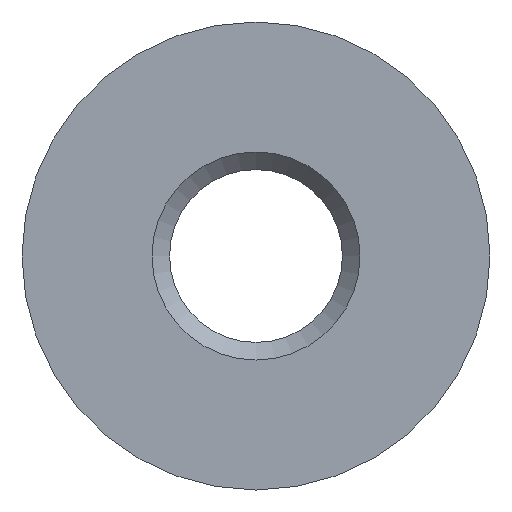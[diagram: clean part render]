
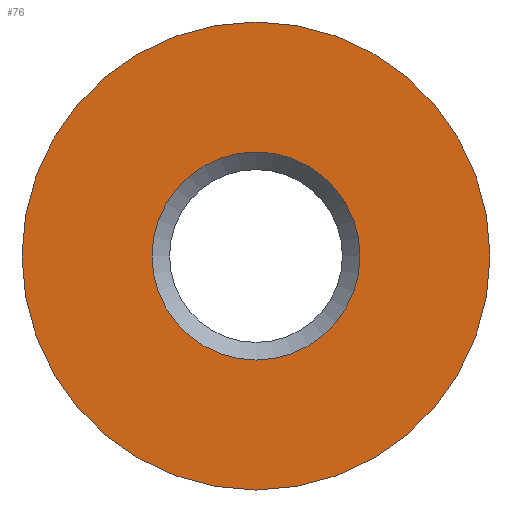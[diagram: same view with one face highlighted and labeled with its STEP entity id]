
A CAD part, front view. The second image highlights one B-rep face of the part: STEP entity #76.
In plain terms, the highlighted planar face has unit normal (0, -1, 0).
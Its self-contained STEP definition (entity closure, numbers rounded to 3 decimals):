
#76 = ADVANCED_FACE( '', ( #97, #98 ), #99, .F. );
#97 = FACE_BOUND( '', #142, .T. );
#98 = FACE_OUTER_BOUND( '', #143, .T. );
#99 = PLANE( '', #144 );
#142 = EDGE_LOOP( '', ( #193 ) );
#143 = EDGE_LOOP( '', ( #194 ) );
#144 = AXIS2_PLACEMENT_3D( '', #195, #196, #197 );
#193 = ORIENTED_EDGE( '', *, *, #319, .F. );
#194 = ORIENTED_EDGE( '', *, *, #320, .T. );
#195 = CARTESIAN_POINT( '', ( 9., 0., 0. ) );
#196 = DIRECTION( '', ( 0., 1., 0. ) );
#197 = DIRECTION( '', ( -1., 0., 0. ) );
#319 = EDGE_CURVE( '', #360, #360, #361, .T. );
#320 = EDGE_CURVE( '', #362, #362, #363, .T. );
#360 = VERTEX_POINT( '', #435 );
#361 = CIRCLE( '', #436, 4. );
#362 = VERTEX_POINT( '', #437 );
#363 = CIRCLE( '', #438, 9. );
#435 = CARTESIAN_POINT( '', ( 0., 0., -4. ) );
#436 = AXIS2_PLACEMENT_3D( '', #561, #562, #563 );
#437 = CARTESIAN_POINT( '', ( 9., 0., 0. ) );
#438 = AXIS2_PLACEMENT_3D( '', #564, #565, #566 );
#561 = CARTESIAN_POINT( '', ( 0., 0., 0. ) );
#562 = DIRECTION( '', ( 0., -1., 0. ) );
#563 = DIRECTION( '', ( 0., 0., -1. ) );
#564 = CARTESIAN_POINT( '', ( 0., 0., 0. ) );
#565 = DIRECTION( '', ( 0., -1., 0. ) );
#566 = DIRECTION( '', ( 1., 0., 0. ) );
